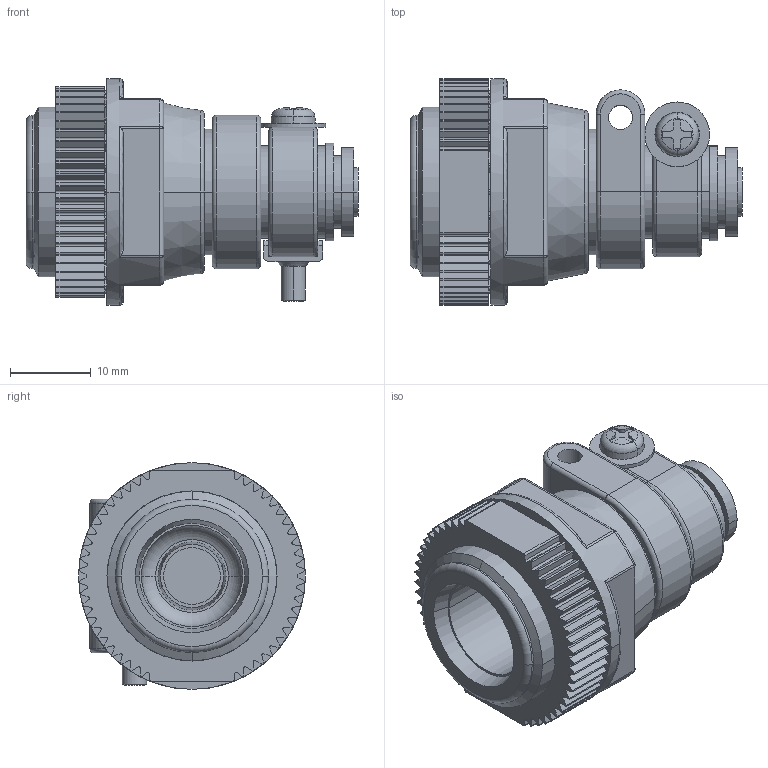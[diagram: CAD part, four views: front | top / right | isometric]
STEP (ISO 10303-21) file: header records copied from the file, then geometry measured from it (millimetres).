
FILE_DESCRIPTION(('Creo Elements/Direct Modeling STEP Export'),'2;1');
FILE_NAME('20130718_OA-S1.stp','2013-09-18T16:45:45',(''),(''),'Creo Elements/Direct Modeling STEP processor for AP214 (Solid Model)','Creo Elements/Direct Modeling 18.1B 29-Sep-2012 (C) Parametric Technology GmbH','');
FILE_SCHEMA(('AUTOMOTIVE_DESIGN { 1 0 10303 214 1 1 1 1 }'));
Length unit declared in the file: millimetre
Products named in the file (6): M3プレスナット; 平ワッシャ; M3なべ小ねじ; OA-S1_本体; OA-1_ロックナット; OA-S1
Assembly tree (5 placements, depth 2):
  OA-S1
    OA-1_ロックナット
    OA-S1_本体
    M3なべ小ねじ
    平ワッシャ
    M3プレスナット
Bounding box: 41 x 28 x 28 mm (x, y, z)
Volume: 10441.8 mm3; surface area: 8586.9 mm2
Topology: 5 solids, 5 shells, 702 faces, 1889 edges, 1143 vertices
Faces by surface type: cylinder 295, plane 268, sphere 67, bspline 30, torus 24, cone 18
Entity records: 27129 total; most frequent: CARTESIAN_POINT 10162, ORIENTED_EDGE 3648, DIRECTION 3439, EDGE_CURVE 1824, AXIS2_PLACEMENT_3D 1256, VERTEX_POINT 1143, VECTOR 927, LINE 927
